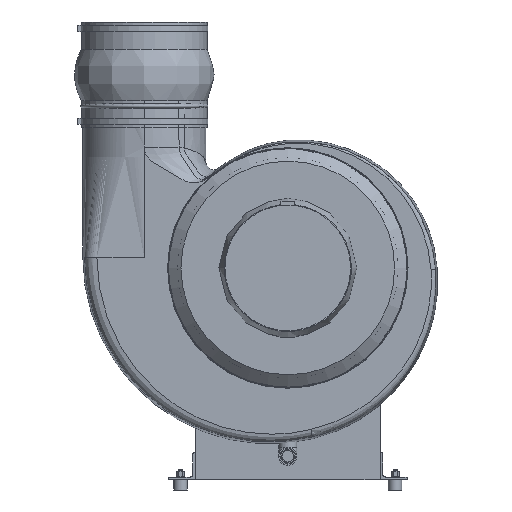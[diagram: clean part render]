
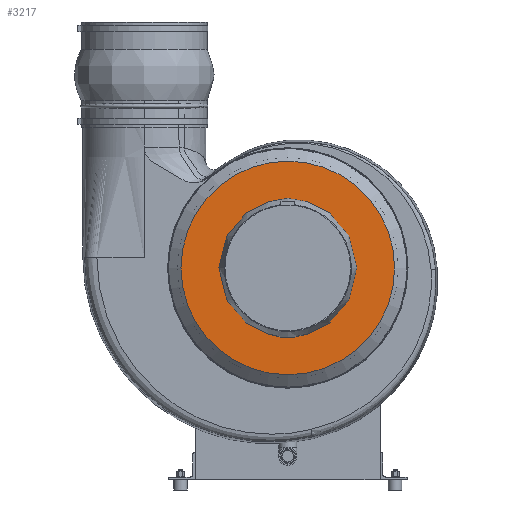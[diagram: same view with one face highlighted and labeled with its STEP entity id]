
A CAD part, front view. The second image highlights one B-rep face of the part: STEP entity #3217.
In plain terms, the highlighted planar face has unit normal (0, -1, 0) as drawn and (-1, 0, 0) by its records, which use the part's own axes.
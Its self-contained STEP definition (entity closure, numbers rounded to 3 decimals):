
#3217 = ADVANCED_FACE( '', ( #7665, #7666 ), #7667, .T. );
#7665 = FACE_BOUND( '', #24640, .T. );
#7666 = FACE_OUTER_BOUND( '', #24641, .T. );
#7667 = PLANE( '', #24642 );
#24640 = EDGE_LOOP( '', ( #63701 ) );
#24641 = EDGE_LOOP( '', ( #63702 ) );
#24642 = AXIS2_PLACEMENT_3D( '', #63703, #63704, #63705 );
#63701 = ORIENTED_EDGE( '', *, *, #80774, .F. );
#63702 = ORIENTED_EDGE( '', *, *, #81978, .T. );
#63703 = CARTESIAN_POINT( '', ( 40., 0., 0. ) );
#63704 = DIRECTION( '', ( -1., 0., 0. ) );
#63705 = DIRECTION( '', ( 0., 0., 1. ) );
#80774 = EDGE_CURVE( '', #86731, #86731, #86732, .T. );
#81978 = EDGE_CURVE( '', #88775, #88775, #88776, .T. );
#86731 = VERTEX_POINT( '', #97472 );
#86732 = CIRCLE( '', #97473, 90. );
#88775 = VERTEX_POINT( '', #105182 );
#88776 = CIRCLE( '', #105183, 156.338 );
#97472 = CARTESIAN_POINT( '', ( 40., 0., 90. ) );
#97473 = AXIS2_PLACEMENT_3D( '', #124775, #124776, #124777 );
#105182 = CARTESIAN_POINT( '', ( 40., 0., 156.338 ) );
#105183 = AXIS2_PLACEMENT_3D( '', #126273, #126274, #126275 );
#124775 = CARTESIAN_POINT( '', ( 40., 0., 0. ) );
#124776 = DIRECTION( '', ( -1., 0., 0. ) );
#124777 = DIRECTION( '', ( 0., 0., 1. ) );
#126273 = CARTESIAN_POINT( '', ( 40., 0., 0. ) );
#126274 = DIRECTION( '', ( -1., 0., 0. ) );
#126275 = DIRECTION( '', ( 0., 0., 1. ) );
